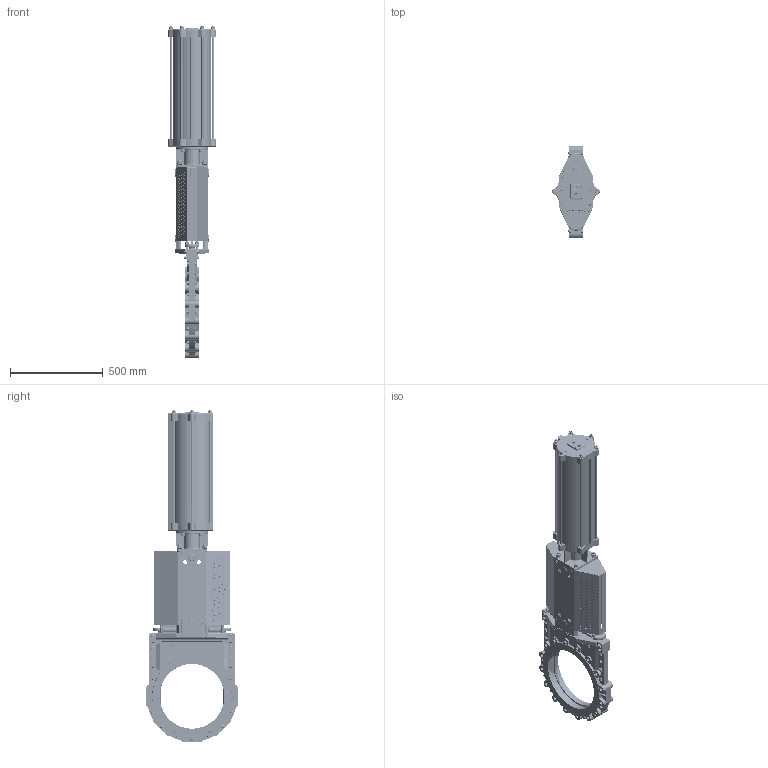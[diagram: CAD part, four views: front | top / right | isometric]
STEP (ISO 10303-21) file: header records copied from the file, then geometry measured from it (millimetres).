
FILE_DESCRIPTION(/* description */ (''),/* implementation_level */ '2;1');
FILE_NAME(/* name */ 'G:\KONSTRUK\3-D Block för kund\WB SERIE\WB14-E\PNEUMATIC ACTUATOR\SC-Cylinder\350\WB14E_DN350_PN10_FRSC200-450.stp',/* time_stamp */ '2020-03-24T08:20:59+01:00',/* author */ ('MATZET'),/* organization */ (''),/* preprocessor_version */ 'ST-DEVELOPER v17.2',/* originating_system */ 'Autodesk Inventor 2019',/* authorisation */ '');
FILE_SCHEMA (('CONFIG_CONTROL_DESIGN'));
Products named in the file (1): WB14E_DN350_PN10_FRSC200-450_Shrinkwrap_1
Bounding box: 256 x 493.08 x 1792.04 mm (x, y, z)
Volume: 20323738.3 mm3; surface area: 4372175.2 mm2
Topology: 1 solids, 1 shells, 5354 faces, 13725 edges, 8801 vertices
Faces by surface type: plane 2338, cylinder 1267, bspline 771, cone 467, torus 335, sphere 176
Full cylindrical faces by diameter (mm): 4 x2, 4.2 x16, 4.3 x8, 4.5 x12, 4.917 x13, 7 x7, 7.5 x4, 8.376 x4, 9.5 x2, 10 x9, 10.106 x2, 11 x6, 12 x49, 13 x22, 13.835 x4, 16 x12, 16.63 x21, 17 x4, 17.294 x32, 18 x3, 18.631 x2, 22 x8, 24 x67, 25 x3, 26 x42, 28 x4, 30 x4, 33 x1, 33.835 x1, 36 x2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
Entity records: 182195 total; most frequent: CARTESIAN_POINT 51530, ORIENTED_EDGE 27382, DIRECTION 25250, EDGE_CURVE 13691, AXIS2_PLACEMENT_3D 9497, VERTEX_POINT 8801, LINE 6256, VECTOR 6256
